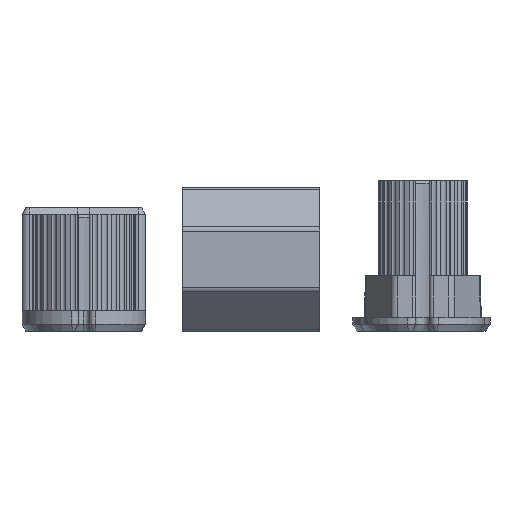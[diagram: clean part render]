
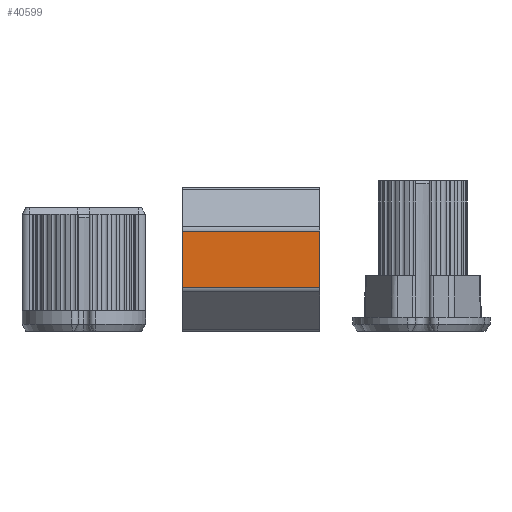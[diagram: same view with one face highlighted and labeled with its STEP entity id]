
A CAD part, front view. The second image highlights one B-rep face of the part: STEP entity #40599.
In plain terms, the highlighted planar face has unit normal (0, -1, 0).
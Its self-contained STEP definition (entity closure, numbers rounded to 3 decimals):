
#3166 = ORIENTED_EDGE ( 'NONE', *, *, #31156, .T. ) ;
#4617 = VECTOR ( 'NONE', #6807, 1000. ) ;
#5288 = VERTEX_POINT ( 'NONE', #26433 ) ;
#6497 = VERTEX_POINT ( 'NONE', #11099 ) ;
#6807 = DIRECTION ( 'NONE',  ( -1., 0., 0. ) ) ;
#8287 = EDGE_CURVE ( 'NONE', #45108, #38501, #21186, .T. ) ;
#8544 = ORIENTED_EDGE ( 'NONE', *, *, #8287, .F. ) ;
#8636 = PLANE ( 'NONE',  #42853 ) ;
#8872 = DIRECTION ( 'NONE',  ( 0., -1., 0. ) ) ;
#9444 = ORIENTED_EDGE ( 'NONE', *, *, #12883, .F. ) ;
#9727 = ORIENTED_EDGE ( 'NONE', *, *, #46423, .T. ) ;
#11099 = CARTESIAN_POINT ( 'NONE',  ( -10., -30.5, 14.586 ) ) ;
#12883 = EDGE_CURVE ( 'NONE', #5288, #6497, #24933, .T. ) ;
#13668 = LINE ( 'NONE', #39196, #4617 ) ;
#17751 = VECTOR ( 'NONE', #39790, 1000. ) ;
#19542 = CARTESIAN_POINT ( 'NONE',  ( 24.849, -30.5, 0. ) ) ;
#20181 = CARTESIAN_POINT ( 'NONE',  ( 10., -30.5, 6.414 ) ) ;
#21186 = LINE ( 'NONE', #29016, #44978 ) ;
#24187 = CARTESIAN_POINT ( 'NONE',  ( 10., -30.5, 14.586 ) ) ;
#24476 = CARTESIAN_POINT ( 'NONE',  ( -10., -30.5, 0. ) ) ;
#24933 = LINE ( 'NONE', #24476, #17751 ) ;
#26095 = VECTOR ( 'NONE', #44827, 1000. ) ;
#26433 = CARTESIAN_POINT ( 'NONE',  ( -10., -30.5, 6.414 ) ) ;
#26667 = FACE_OUTER_BOUND ( 'NONE', #28168, .T. ) ;
#28168 = EDGE_LOOP ( 'NONE', ( #9444, #3166, #8544, #9727 ) ) ;
#29016 = CARTESIAN_POINT ( 'NONE',  ( 10., -30.5, 0. ) ) ;
#29786 = LINE ( 'NONE', #44119, #26095 ) ;
#31156 = EDGE_CURVE ( 'NONE', #5288, #38501, #29786, .T. ) ;
#38501 = VERTEX_POINT ( 'NONE', #20181 ) ;
#39196 = CARTESIAN_POINT ( 'NONE',  ( 24.849, -30.5, 14.586 ) ) ;
#39790 = DIRECTION ( 'NONE',  ( 0., 0., 1. ) ) ;
#40599 = ADVANCED_FACE ( 'NONE', ( #26667 ), #8636, .T. ) ;
#41735 = DIRECTION ( 'NONE',  ( 0., 0., -1. ) ) ;
#42853 = AXIS2_PLACEMENT_3D ( 'NONE', #19542, #8872, #41735 ) ;
#44119 = CARTESIAN_POINT ( 'NONE',  ( 24.849, -30.5, 6.414 ) ) ;
#44827 = DIRECTION ( 'NONE',  ( 1., 0., 0. ) ) ;
#44978 = VECTOR ( 'NONE', #46231, 1000. ) ;
#45108 = VERTEX_POINT ( 'NONE', #24187 ) ;
#46231 = DIRECTION ( 'NONE',  ( 0., 0., -1. ) ) ;
#46423 = EDGE_CURVE ( 'NONE', #45108, #6497, #13668, .T. ) ;
